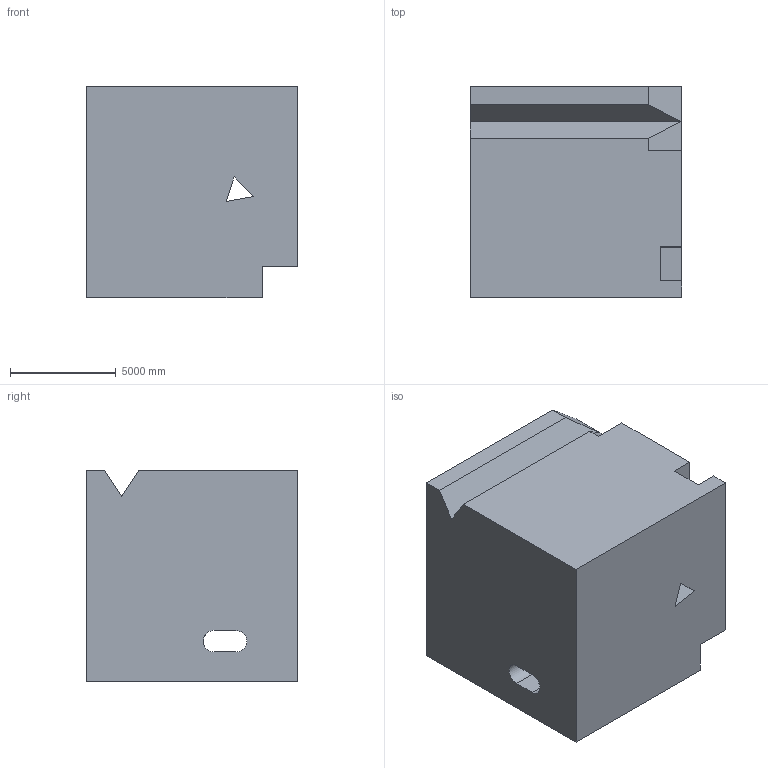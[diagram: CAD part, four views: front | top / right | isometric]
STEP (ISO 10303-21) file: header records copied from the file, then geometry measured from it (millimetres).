
FILE_DESCRIPTION (( 'STEP AP203' ), '1' );
FILE_NAME ('715.STEP', '2022-08-04T15:44:32', ( 'user' ), ( '' ), 'SwSTEP 2.0', 'SolidWorks 2021', '' );
FILE_SCHEMA (( 'CONFIG_CONTROL_DESIGN' ));
Length unit declared in the file: centimetre
Products named in the file (1): 715
Bounding box: 10000 x 10000 x 10000 mm (x, y, z)
Volume: 903569485706.9 mm3; surface area: 733991079 mm2
Topology: 1 solids, 1 shells, 33 faces, 93 edges, 62 vertices
Faces by surface type: plane 31, cylinder 2
Entity records: 1138 total; most frequent: CARTESIAN_POINT 189, ORIENTED_EDGE 186, DIRECTION 167, EDGE_CURVE 93, VECTOR 87, LINE 87, VERTEX_POINT 62, AXIS2_PLACEMENT_3D 40
